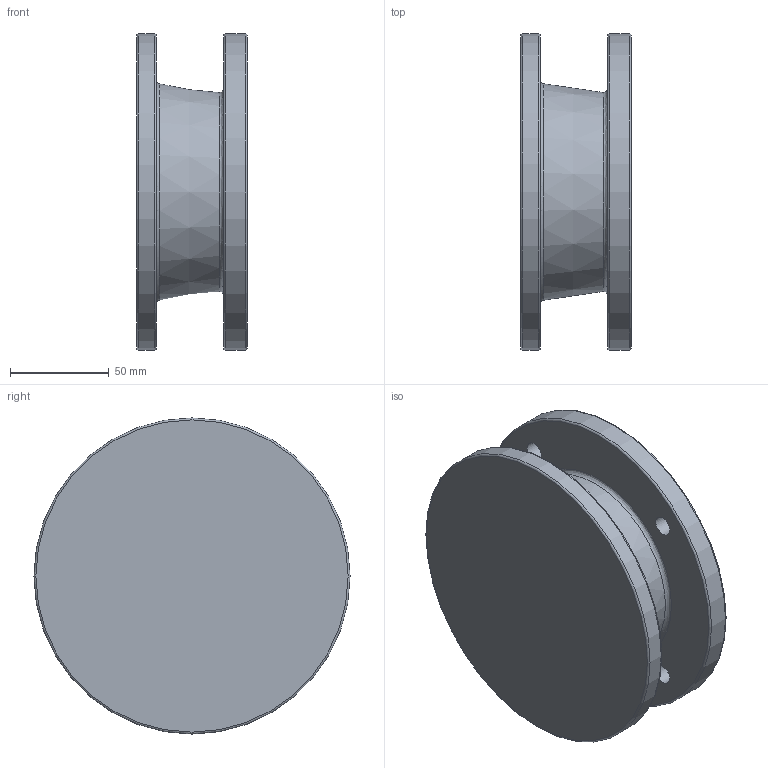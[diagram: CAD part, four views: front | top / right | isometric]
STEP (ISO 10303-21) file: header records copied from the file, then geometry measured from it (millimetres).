
FILE_DESCRIPTION((''),'2;1');
FILE_NAME('D:\PAWEŁ\ZLECENIA\2011 DualSystem\Przekładnie DR\DR60\STEP\71_B5_L56.stp','2012-06-11T12:09:27',('admin'),(''),'Autodesk Inventor 2009','Autodesk Inventor 2009','');
FILE_SCHEMA(('AUTOMOTIVE_DESIGN { 1 0 10303 214 1 1 1 1 }'));
Length unit declared in the file: millimetre
Products named in the file (1): 71_B5_L56
Bounding box: 56 x 160 x 160 mm (x, y, z)
Volume: 437032.3 mm3; surface area: 103741.7 mm2
Topology: 1 solids, 1 shells, 29 faces, 56 edges, 35 vertices
Faces by surface type: plane 11, bspline 6, cylinder 5, torus 5, cone 2
Full cylindrical faces by diameter (mm): 24 x1, 100 x1, 160 x2
Entity records: 874 total; most frequent: CARTESIAN_POINT 278, DIRECTION 116, ORIENTED_EDGE 78, EDGE_LOOP 60, AXIS2_PLACEMENT_3D 53, EDGE_CURVE 39, VERTEX_POINT 35, FACE_BOUND 31
